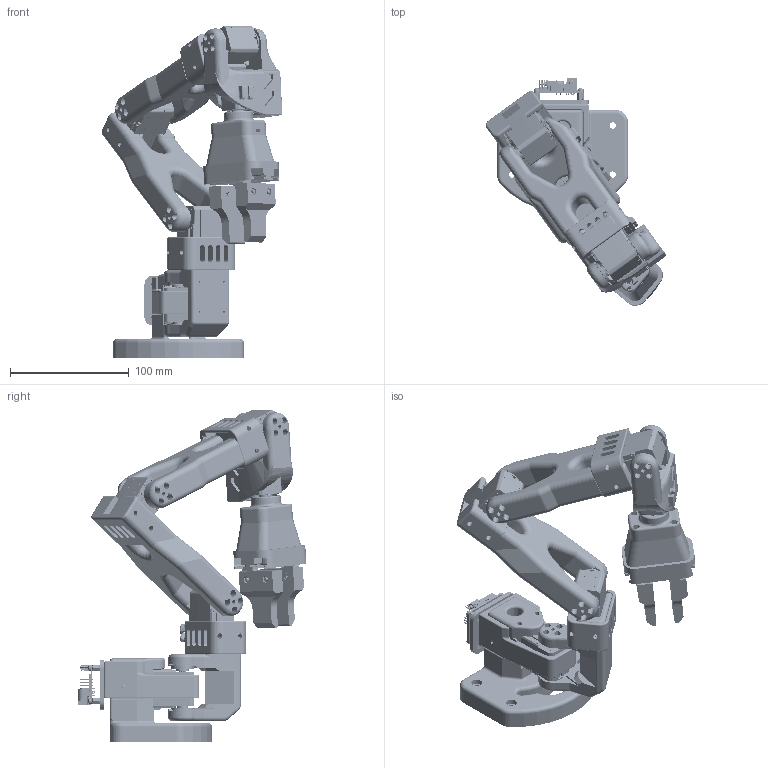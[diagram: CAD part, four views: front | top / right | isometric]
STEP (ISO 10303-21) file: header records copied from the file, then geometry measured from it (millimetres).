
FILE_DESCRIPTION(/* description */ (''),/* implementation_level */ '2;1');
FILE_NAME(/* name */ 'SO101 Assembly new2.stp',/* time_stamp */ '2025-06-23T20:24:48+02:00',/* author */ ('R5800u'),/* organization */ (''),/* preprocessor_version */ 'ST-DEVELOPER v20',/* originating_system */ 'Autodesk Inventor 2025',/* authorisation */ '');
FILE_SCHEMA (('AUTOMOTIVE_DESIGN { 1 0 10303 214 3 1 1 }'));
Length unit declared in the file: millimetre
Products named in the file (207): SO101 Assembly; Base_SO101 v12 copy; Rotation_Pitch_SO101; Upper_arm_SO101; Parte6; Under_arm_SO101; Parte8; Base_08p; Motor_holder_SO101_Base; Parte12; Motor_holder_SO101_Wrist; Parte14; Wrist_Roll_Pitch_SO100; Parte16; CRFHTSTATI ANSI B18.6.4 - 1-42 x 3/16 Steel Grade 2 Plain; PCB; Board; C1; C2; C3; C4; C5; C7; C_0603; C_0603-7177_AF0_ASM; C_0603-683_AF0_ASM; C6; D2; DC1; dc-005-5a-20; H1; User_Library-DG350-3,5-02P; H3; H5; X2564WV-03-N0SN; R2; R0603; R_0603-3615_AF0_ASM; R_0603-3601_AF0_ASM; R3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
Assembly tree (316 placements, depth 7):
  SO101 Assembly
    Base_SO101 v12 copy
    Rotation_Pitch_SO101
    Upper_arm_SO101
      Parte6
    Under_arm_SO101
      Parte8
    Base_08p
    Motor_holder_SO101_Base
      Parte12
    Motor_holder_SO101_Wrist
      Parte14
    Wrist_Roll_Pitch_SO100
      Parte16
    CRFHTSTATI ANSI B18.6.4 - 1-42 x 3/16 Steel Grade 2 Plain  x4
    PCB
      Board
      C1
        User_Library-0603_SMD_Capacitor
      C2
        User_Library-0603_SMD_Capacitor
      C3
        User_Library-0603_SMD_Capacitor
      C4
        User_Library-0603_SMD_Capacitor
      C5
        User_Library-0603_SMD_Capacitor
      C7
        C_0603
          C_0603-7177_AF0_ASM
            C_0603-683_AF0_ASM
              2_1_200
              _1_1_20001
              3_1_2_A
      C6
        User_Library-0603_SMD_Capacitor
      D2
        SOD323
      DC1
        dc-005-5a-20
      H1
        User_Library-DG350-3,5-02P
      H3
        X2564WV-03-N0SN
      H5
        X2564WV-03-N0SN
      R2
        R0603
          R_0603-3615_AF0_ASM
            R_0603-3601_AF0_ASM
              _2_1_2_3_4_AF0
              _7_1_2_AF0
              5_1_2_3_400
      R3
        R0603_1
          R_0603-3615_AF0_ASM_1
            R_0603-3601_AF0_ASM_1
              _2_1_2_3_4_AF0
              _7_1_2_AF0
              5_1_2_3_400
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Bounding box: 152.26 x 192.95 x 279.84 mm (x, y, z)
Volume: 844475.1 mm3; surface area: 318565 mm2
Topology: 202 solids, 265 shells, 19557 faces, 53357 edges, 35142 vertices
Faces by surface type: plane 11367, cylinder 4483, bspline 2742, cone 364, torus 357, sphere 244
Full cylindrical faces by diameter (mm): 0.08 x1, 0.4 x1, 0.5 x2, 0.7 x12, 0.762 x2, 0.8 x2, 0.82 x6, 0.889 x11, 1 x14, 1.03 x6, 1.167 x3, 1.2 x5, 1.5 x7, 1.6 x60, 1.755 x1, 1.829 x4, 2 x17, 2.2 x36, 2.256 x4, 2.43 x4, 2.47 x1, 2.5 x171, 2.6 x5, 2.7 x5, 2.8 x2, 2.997 x4, 3 x10, 3.2 x34, 3.5 x16, 4 x8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
Entity records: 348499 total; most frequent: CARTESIAN_POINT 130753, ORIENTED_EDGE 45579, DIRECTION 41771, EDGE_CURVE 22790, LINE 15417, VECTOR 15417, VERTEX_POINT 14972, AXIS2_PLACEMENT_3D 13177
